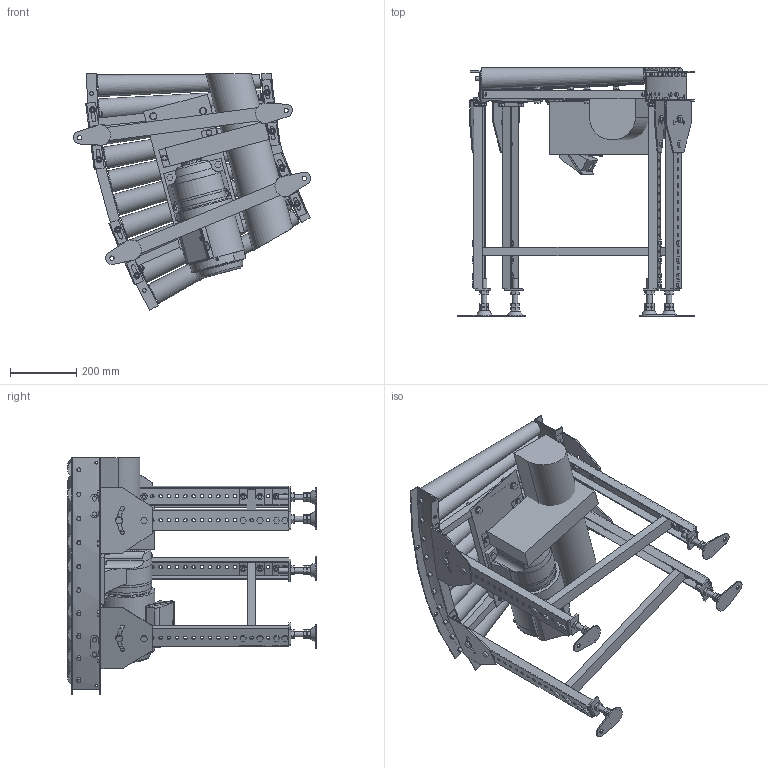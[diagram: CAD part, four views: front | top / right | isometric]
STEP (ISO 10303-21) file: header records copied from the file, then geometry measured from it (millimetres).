
FILE_DESCRIPTION( (''), '2;1');
FILE_NAME ('WEB-MCD-42-500-50-30°-C9.stp','2026-03-19T09:41:07',(''),(''),'spGate 20.6.2 (****-****-****-****)','','');
FILE_SCHEMA (('AUTOMOTIVE_DESIGN'));
Length unit declared in the file: millimetre
Products named in the file (51): WEB-MCD-42-500-50-30_-C9; TEMP_X_T-prt0; TEMP_X_T-prt1; TEMP_X_T-prt2; TEMP_X_T-prt3; TEMP_X_T-prt4; TEMP_X_T-prt5; TEMP_X_T-prt6; TEMP_X_T-prt7; TEMP_X_T-prt8; TEMP_X_T-prt9; TEMP_X_T-prt10; TEMP_X_T-prt11; TEMP_X_T-prt12; TEMP_X_T-prt13; TEMP_X_T-prt14; TEMP_X_T-prt15; TEMP_X_T-prt16; TEMP_X_T-prt17; TEMP_X_T-prt18; TEMP_X_T-prt19; TEMP_X_T-prt20; TEMP_X_T-prt21; TEMP_X_T-prt22; TEMP_X_T-prt23; TEMP_X_T-prt24; TEMP_X_T-prt25; TEMP_X_T-prt26; TEMP_X_T-prt27; TEMP_X_T-prt28; TEMP_X_T-prt29; TEMP_X_T-prt30; TEMP_X_T-prt31; TEMP_X_T-prt32; TEMP_X_T-prt33; TEMP_X_T-prt34; TEMP_X_T-prt35; TEMP_X_T-prt36; TEMP_X_T-prt37; TEMP_X_T-prt38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
Assembly tree (50 placements, depth 2):
  WEB-MCD-42-500-50-30_-C9
    TEMP_X_T-prt0
    TEMP_X_T-prt1
    TEMP_X_T-prt2
    TEMP_X_T-prt3
    TEMP_X_T-prt4
    TEMP_X_T-prt5
    TEMP_X_T-prt6
    TEMP_X_T-prt7
    TEMP_X_T-prt8
    TEMP_X_T-prt9
    TEMP_X_T-prt10
    TEMP_X_T-prt11
    TEMP_X_T-prt12
    TEMP_X_T-prt13
    TEMP_X_T-prt14
    TEMP_X_T-prt15
    TEMP_X_T-prt16
    TEMP_X_T-prt17
    TEMP_X_T-prt18
    TEMP_X_T-prt19
    TEMP_X_T-prt20
    TEMP_X_T-prt21
    TEMP_X_T-prt22
    TEMP_X_T-prt23
    TEMP_X_T-prt24
    TEMP_X_T-prt25
    TEMP_X_T-prt26
    TEMP_X_T-prt27
    TEMP_X_T-prt28
    TEMP_X_T-prt29
    TEMP_X_T-prt30
    TEMP_X_T-prt31
    TEMP_X_T-prt32
    TEMP_X_T-prt33
    TEMP_X_T-prt34
    TEMP_X_T-prt35
    TEMP_X_T-prt36
    TEMP_X_T-prt37
    TEMP_X_T-prt38
    TEMP_X_T-prt39
    TEMP_X_T-prt40
    TEMP_X_T-prt41
    TEMP_X_T-prt42
    TEMP_X_T-prt43
    TEMP_X_T-prt44
    TEMP_X_T-prt45
    TEMP_X_T-prt46
    TEMP_X_T-prt47
    TEMP_X_T-prt48
    TEMP_X_T-prt49
Bounding box: 716.54 x 749.99 x 715 mm (x, y, z)
Volume: 34102403.3 mm3; surface area: 3279300.2 mm2
Topology: 50 solids, 76 shells, 2625 faces, 6525 edges, 4249 vertices
Faces by surface type: plane 2071, cylinder 487, bspline 66, sphere 1
Full cylindrical faces by diameter (mm): 6.94 x3, 7 x1, 8 x21, 8.5 x22, 9 x2, 10 x56, 10.5 x100, 11 x10, 12 x24, 12.4 x10, 13 x4, 14 x4, 15.4 x4, 16 x4, 17 x4, 18 x8, 18.4 x28, 18.5 x8, 21 x8, 27 x1, 31 x1, 63 x1, 149.6 x1, 153 x1, 171 x1
Entity records: 139173 total; most frequent: CARTESIAN_POINT 21409, DIRECTION 13188, ORIENTED_EDGE 13050, COLOUR_RGB 9200, PRESENTATION_STYLE_ASSIGNMENT 9200, STYLED_ITEM 9200, EDGE_CURVE 6525, DRAUGHTING_PRE_DEFINED_CURVE_FONT 6525
